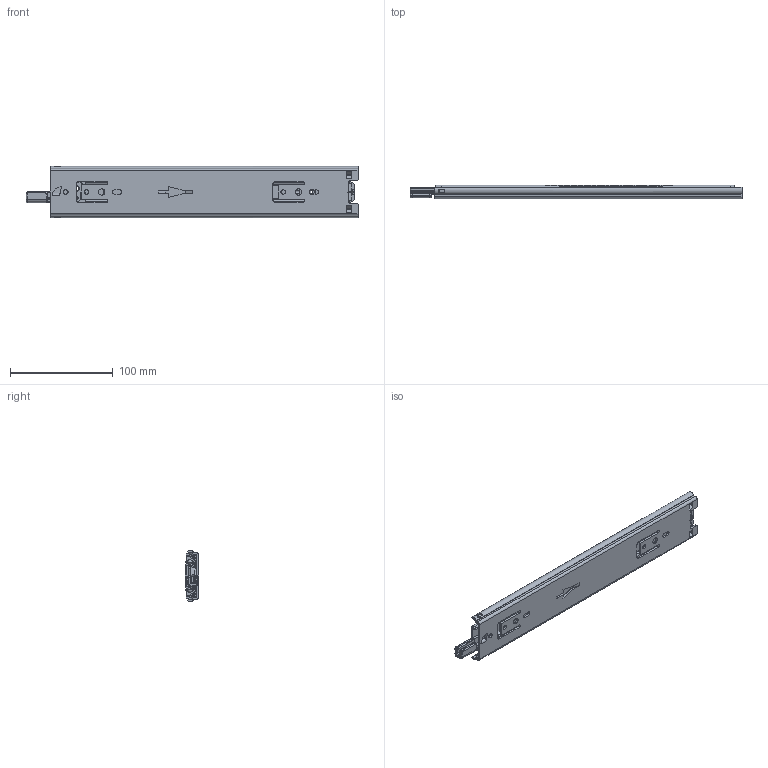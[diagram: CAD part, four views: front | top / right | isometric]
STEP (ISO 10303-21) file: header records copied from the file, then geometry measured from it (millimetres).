
FILE_DESCRIPTION((''),'2;1');
FILE_NAME('KP-50-3S-12-ZUO_ASM','2023-04-28T',('jishu015'),(''),'PRO/ENGINEER BY PARAMETRIC TECHNOLOGY CORPORATION, 2010280','PRO/ENGINEER BY PARAMETRIC TECHNOLOGY CORPORATION, 2010280','');
FILE_SCHEMA(('CONFIG_CONTROL_DESIGN'));
Length unit declared in the file: millimetre
Products named in the file (19): KP-50-01WAIKE18____________; KP-50-01ZHONGGIU18____________; ZHONGGUIPEIJIAN_________; 50BAIKOU______; KP-53-01ZHONGGUI-18_____________ASM; KP-50-01ZHUJIA-16GE____________; 4-76GANZHU____________; KP-50-01ZHUJIA-16GE_____________ASM; KP-50-01NEIGUI18____________; YH1050BANJI_________; PIAN_________; JIAO_________; DAOPIAN______; ZOU-1______; KP53-0NEIGUI_____________ASM; 50ZHUTIAO____________; 50ZHUTIAO_____________ASM; CHANGGUI1045WEIJIAO2_________; KP-50-3S-12-ZUO_ASM
Assembly tree (42 placements, depth 3):
  KP-50-3S-12-ZUO_ASM
    KP-50-01WAIKE18____________
    KP-53-01ZHONGGUI-18_____________ASM
      KP-50-01ZHONGGIU18____________
      ZHONGGUIPEIJIAN_________
      50BAIKOU______
    KP-50-01ZHUJIA-16GE_____________ASM
      KP-50-01ZHUJIA-16GE____________
      4-76GANZHU____________  x20
    KP53-0NEIGUI_____________ASM
      KP-50-01NEIGUI18____________
      YH1050BANJI_________
      PIAN_________
      JIAO_________
      DAOPIAN______
      ZOU-1______
    50ZHUTIAO_____________ASM  x2
      50ZHUTIAO____________
      4-76GANZHU____________
    CHANGGUI1045WEIJIAO2_________
Bounding box: 323.8 x 13 x 50 mm (x, y, z)
Volume: 89766.4 mm3; surface area: 118467.4 mm2
Topology: 42 solids, 43 shells, 1289 faces, 3684 edges, 2304 vertices
Faces by surface type: plane 558, cylinder 542, bspline 69, sphere 58, torus 25, extrusion 23, cone 14
Entity records: 43524 total; most frequent: CARTESIAN_POINT 11106, ORIENTED_EDGE 6840, DIRECTION 6693, EDGE_CURVE 3422, AXIS2_PLACEMENT_3D 2286, VERTEX_POINT 2186, VECTOR 2121, LINE 2098
